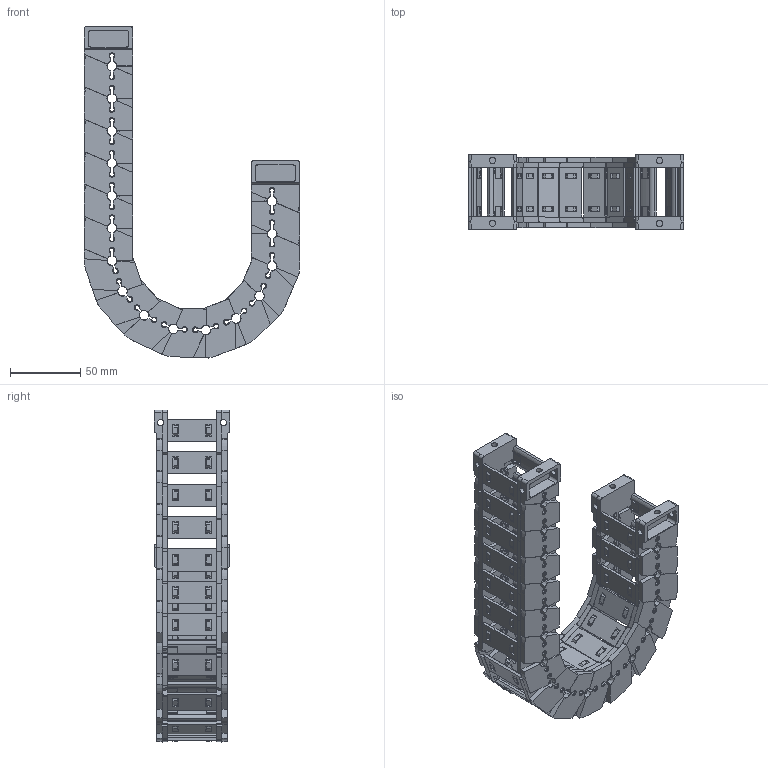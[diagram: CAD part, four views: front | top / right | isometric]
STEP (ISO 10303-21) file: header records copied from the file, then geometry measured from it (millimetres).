
FILE_DESCRIPTION((''),'2;1');
FILE_NAME('JY-28X35-R55_ASM','2026-03-26T08:11:18',('admin'),(''),'CREO PARAMETRIC BY PTC INC, 2021023','CREO PARAMETRIC BY PTC INC, 2021023','');
FILE_SCHEMA(('CONFIG_CONTROL_DESIGN'));
Length unit declared in the file: millimetre
Products named in the file (11): 28XL-L; 25-35XL-YP; 28XL-R; ASM0001_ASM; 28-LTT-A-L; 28-LTT-A-R; 28XL-LTT-A_ASM; 28-LTT-B-L; 28-LTT-B-R; 28XL-LTT-B_ASM; JY-28X35-R55_ASM
Assembly tree (29 placements, depth 3):
  JY-28X35-R55_ASM
    ASM0001_ASM  x15
      28XL-L
      25-35XL-YP
      28XL-R
    28XL-LTT-A_ASM
      28-LTT-A-L
      25-35XL-YP  x2
      28-LTT-A-R
    28XL-LTT-B_ASM
      28-LTT-B-L
      25-35XL-YP  x2
      28-LTT-B-R
Bounding box: 153.11 x 53.5 x 235.62 mm (x, y, z)
Volume: 230742 mm3; surface area: 169610 mm2
Topology: 68 solids, 68 shells, 5486 faces, 16300 edges, 10882 vertices
Faces by surface type: plane 3597, cone 973, cylinder 796, bspline 120
Entity records: 29071 total; most frequent: CARTESIAN_POINT 9487, ORIENTED_EDGE 4352, DIRECTION 3649, EDGE_CURVE 2176, VERTEX_POINT 1454, VECTOR 1365, LINE 1365, AXIS2_PLACEMENT_3D 1142
